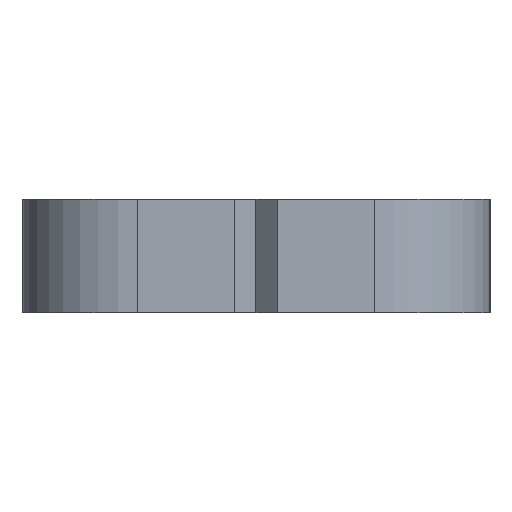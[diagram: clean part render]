
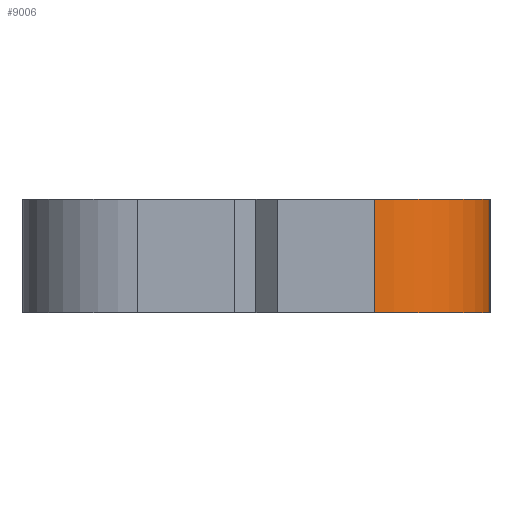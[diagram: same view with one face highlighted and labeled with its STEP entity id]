
A CAD part, left-side view. The second image highlights one B-rep face of the part: STEP entity #9006.
In plain terms, the highlighted cylindrical face has radius 6.2 mm (diameter 12.4 mm), a partial arc.
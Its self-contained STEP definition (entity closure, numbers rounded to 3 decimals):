
#468 = AXIS2_PLACEMENT_3D ( 'NONE', #22277, #29550, #22421 ) ;
#2118 = VECTOR ( 'NONE', #3567, 1000. ) ;
#2291 = VECTOR ( 'NONE', #16749, 1000. ) ;
#3567 = DIRECTION ( 'NONE',  ( 0., 0., -1. ) ) ;
#3797 = FACE_OUTER_BOUND ( 'NONE', #15865, .T. ) ;
#5198 = DIRECTION ( 'NONE',  ( 0., 0., 1. ) ) ;
#5216 = DIRECTION ( 'NONE',  ( 0., 0., 1. ) ) ;
#6090 = AXIS2_PLACEMENT_3D ( 'NONE', #17452, #5198, #19468 ) ;
#7588 = CARTESIAN_POINT ( 'NONE',  ( -44.45, -12.55, -3.05 ) ) ;
#9006 = ADVANCED_FACE ( 'NONE', ( #3797 ), #17915, .T. ) ;
#9754 = AXIS2_PLACEMENT_3D ( 'NONE', #19347, #5216, #22136 ) ;
#9833 = CARTESIAN_POINT ( 'NONE',  ( -50.65, -6.35, 3.05 ) ) ;
#12813 = EDGE_CURVE ( 'NONE', #25700, #25211, #29331, .T. ) ;
#15612 = ORIENTED_EDGE ( 'NONE', *, *, #25075, .T. ) ;
#15865 = EDGE_LOOP ( 'NONE', ( #15612, #16212, #24420, #21177 ) ) ;
#15977 = LINE ( 'NONE', #28063, #2291 ) ;
#16212 = ORIENTED_EDGE ( 'NONE', *, *, #29676, .T. ) ;
#16749 = DIRECTION ( 'NONE',  ( 0., 0., -1. ) ) ;
#17452 = CARTESIAN_POINT ( 'NONE',  ( -44.45, -6.35, 3.05 ) ) ;
#17915 = CYLINDRICAL_SURFACE ( 'NONE', #468, 6.2 ) ;
#18183 = VERTEX_POINT ( 'NONE', #19544 ) ;
#19347 = CARTESIAN_POINT ( 'NONE',  ( -44.45, -6.35, -3.05 ) ) ;
#19455 = CIRCLE ( 'NONE', #6090, 6.2 ) ;
#19468 = DIRECTION ( 'NONE',  ( 1., 0., 0. ) ) ;
#19544 = CARTESIAN_POINT ( 'NONE',  ( -50.65, -6.35, -3.05 ) ) ;
#21177 = ORIENTED_EDGE ( 'NONE', *, *, #21542, .F. ) ;
#21542 = EDGE_CURVE ( 'NONE', #30026, #25700, #19455, .T. ) ;
#22136 = DIRECTION ( 'NONE',  ( 1., 0., 0. ) ) ;
#22277 = CARTESIAN_POINT ( 'NONE',  ( -44.45, -6.35, 1. ) ) ;
#22421 = DIRECTION ( 'NONE',  ( -1., 0., 0. ) ) ;
#23140 = CIRCLE ( 'NONE', #9754, 6.2 ) ;
#24420 = ORIENTED_EDGE ( 'NONE', *, *, #12813, .F. ) ;
#24837 = CARTESIAN_POINT ( 'NONE',  ( -44.45, -12.55, 1. ) ) ;
#25075 = EDGE_CURVE ( 'NONE', #30026, #18183, #15977, .T. ) ;
#25211 = VERTEX_POINT ( 'NONE', #7588 ) ;
#25700 = VERTEX_POINT ( 'NONE', #27228 ) ;
#27228 = CARTESIAN_POINT ( 'NONE',  ( -44.45, -12.55, 3.05 ) ) ;
#28063 = CARTESIAN_POINT ( 'NONE',  ( -50.65, -6.35, 1. ) ) ;
#29331 = LINE ( 'NONE', #24837, #2118 ) ;
#29550 = DIRECTION ( 'NONE',  ( 0., 0., -1. ) ) ;
#29676 = EDGE_CURVE ( 'NONE', #18183, #25211, #23140, .T. ) ;
#30026 = VERTEX_POINT ( 'NONE', #9833 ) ;
